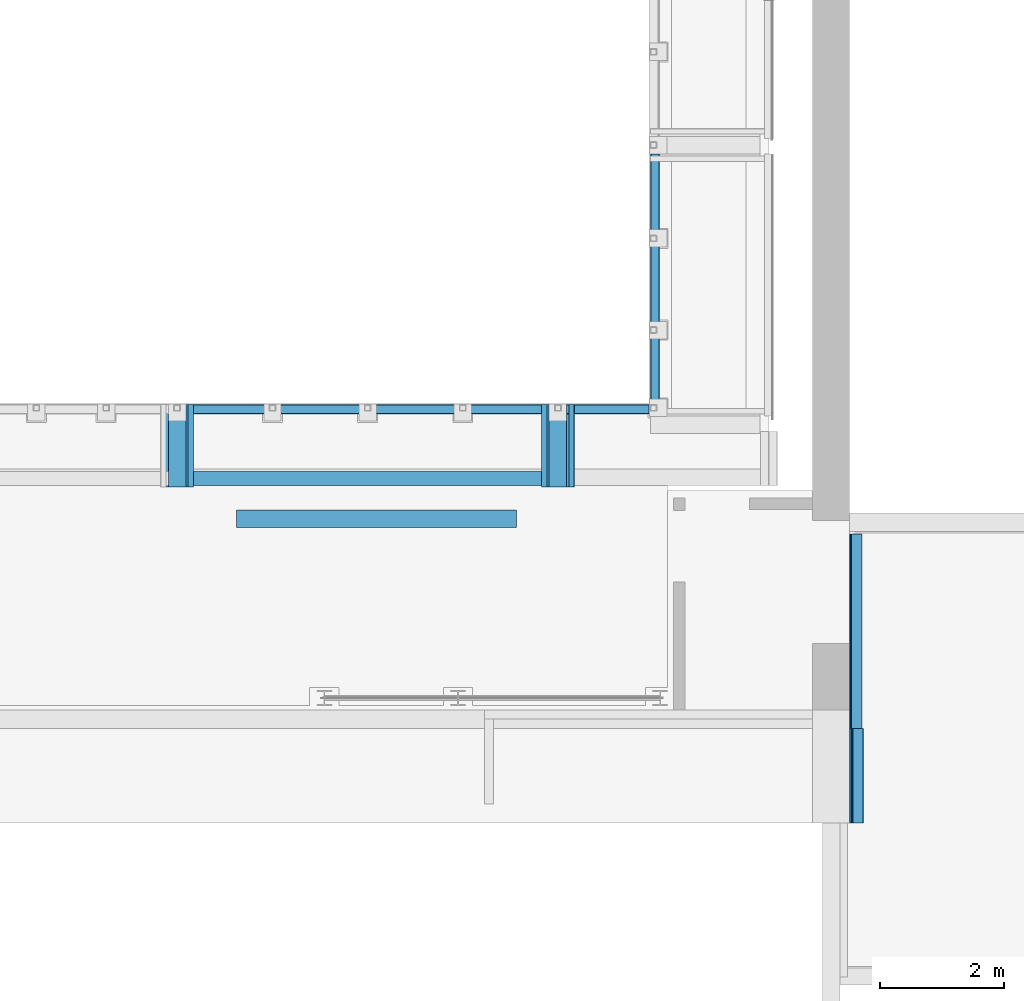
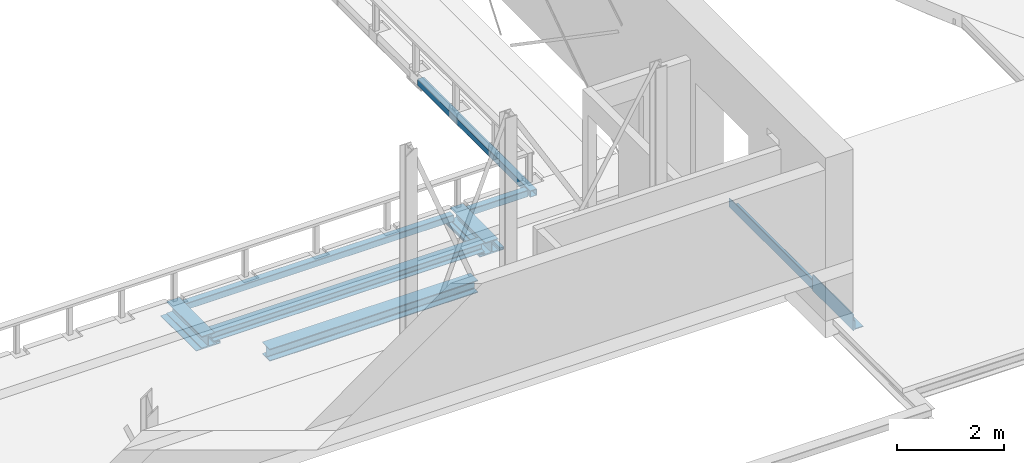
# One storey, part 17 of 68: 12 beams.
"""IFC2X3 building model written with IfcOpenShell, lengths in millimetres."""

from ifc_helpers import new_model, entity, si_unit, converted_unit, derived_unit, direction, frame, frame_2d, origin, origin_2d_with_axis, place, context, subcontext, project, spatial, polyline, circle_curve, parameter, trimmed, segment, composite_curve, rectangle, i_section, outline, extrude, source, transform, mapped, material, material_list, type_object, type_shapes, element, save


model = new_model("IFC2X3")

# Units and contexts
model_context = context("Model", 3, precision=0.01, world=origin(), true_north=direction((6.12303176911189e-17, 1.0)))
body_context = subcontext(model_context, "Body", "Model", "MODEL_VIEW")
ifc_project = project(units=[si_unit("LENGTHUNIT", "METRE", prefix="MILLI"), si_unit("AREAUNIT", "SQUARE_METRE", prefix="MILLI"), si_unit("VOLUMEUNIT", "CUBIC_METRE"), converted_unit("PLANEANGLEUNIT", "DEGREE", entity("IfcRatioMeasure", 0.0174532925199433), si_unit("PLANEANGLEUNIT", "RADIAN"), dimensions=[0, 0, 0, 0, 0, 0, 0]), si_unit("MASSUNIT", "GRAM", prefix="KILO"), derived_unit("MASSDENSITYUNIT", [(si_unit("MASSUNIT", "GRAM", prefix="KILO"), 1), (si_unit("LENGTHUNIT", "METRE"), -3)]), derived_unit("MOMENTOFINERTIAUNIT", [(si_unit("LENGTHUNIT", "METRE"), 4)]), si_unit("TIMEUNIT", "SECOND"), si_unit("FREQUENCYUNIT", "HERTZ"), si_unit("THERMODYNAMICTEMPERATUREUNIT", "DEGREE_CELSIUS"), derived_unit("THERMALTRANSMITTANCEUNIT", [(si_unit("MASSUNIT", "GRAM", prefix="KILO"), 1), (si_unit("THERMODYNAMICTEMPERATUREUNIT", "KELVIN"), -1), (si_unit("TIMEUNIT", "SECOND"), -3)]), derived_unit("VOLUMETRICFLOWRATEUNIT", [(si_unit("LENGTHUNIT", "METRE"), 3), (si_unit("TIMEUNIT", "SECOND"), -1)]), si_unit("ELECTRICCURRENTUNIT", "AMPERE"), si_unit("ELECTRICVOLTAGEUNIT", "VOLT"), si_unit("POWERUNIT", "WATT"), si_unit("FORCEUNIT", "NEWTON", prefix="KILO"), si_unit("ILLUMINANCEUNIT", "LUX"), si_unit("LUMINOUSFLUXUNIT", "LUMEN"), si_unit("LUMINOUSINTENSITYUNIT", "CANDELA"), derived_unit("USERDEFINED", [(si_unit("MASSUNIT", "GRAM", prefix="KILO"), -1), (si_unit("LENGTHUNIT", "METRE"), -2), (si_unit("TIMEUNIT", "SECOND"), 3), (si_unit("LUMINOUSFLUXUNIT", "LUMEN"), 1)]), derived_unit("LINEARVELOCITYUNIT", [(si_unit("LENGTHUNIT", "METRE"), 1), (si_unit("TIMEUNIT", "SECOND"), -1)]), si_unit("PRESSUREUNIT", "PASCAL"), derived_unit("USERDEFINED", [(si_unit("LENGTHUNIT", "METRE"), -2), (si_unit("MASSUNIT", "GRAM", prefix="KILO"), 1), (si_unit("TIMEUNIT", "SECOND"), -2)]), derived_unit("LINEARFORCEUNIT", [(si_unit("MASSUNIT", "GRAM", prefix="KILO"), 1), (si_unit("LENGTHUNIT", "METRE"), 1), (si_unit("TIMEUNIT", "SECOND"), -2), (si_unit("LENGTHUNIT", "METRE"), -1)]), derived_unit("PLANARFORCEUNIT", [(si_unit("MASSUNIT", "GRAM", prefix="KILO"), 1), (si_unit("LENGTHUNIT", "METRE"), 1), (si_unit("TIMEUNIT", "SECOND"), -2), (si_unit("LENGTHUNIT", "METRE"), -2)])], contexts=[model_context])

# Site, building, storey
site_placement = place(None, origin())
site = spatial("IfcSite", under=ifc_project, at=site_placement, Name="Theater aan de Parade", CompositionType="ELEMENT")
building_placement = place(site_placement, origin())
building = spatial("IfcBuilding", under=site, at=building_placement, Name="Theater aan de Parade", CompositionType="ELEMENT")
storey_placement = place(building_placement, frame((0.0, 0.0, 8750.0)))
storey = spatial("IfcBuildingStorey", under=building, at=storey_placement, Name="02 tweede verdieping", CompositionType="ELEMENT", Elevation=8750.0)

# Beams
ifc_material_1 = material(Name="00_PBT_MAT_staal_S355")
ifc_material_2 = material(Name="00_PBT_MAT_Lucht")
ifc_material_list = material_list([ifc_material_2, ifc_material_1])
beam_type_1 = type_object("IfcBeamType", Name="28_PBT_SF_staal_H-profiel_met_onderplaat (void):S355_HE280B + onderplaat d=12", PredefinedType="BEAM", material=ifc_material_list)
shared_shape_1 = source(origin(), body_context, "Body", "SweptSolid", [
    extrude(rectangle(XDim=12.0, YDim=530.0, at=origin_2d_with_axis()), frame((-663.501290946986, 0.0, -146.0), z_axis=(1.0, 0.0, 0.0), x_axis=(0.0, 0.0, -1.0)), (0.0, 0.0, 1.0), 1327.00258189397),
    extrude(outline(composite_curve([segment(polyline([(122.0, -140.0), (140.0, -140.0)]), True, "CONTINUOUS"), segment(polyline([(140.0, -140.0), (140.0, 140.0)]), True, "CONTINUOUS"), segment(polyline([(140.0, 140.0), (122.0, 140.0)]), True, "CONTINUOUS"), segment(polyline([(122.0, 140.0), (122.0, 29.25)]), True, "CONTINUOUS"), segment(trimmed(circle_curve(frame_2d((98.0, 29.25), x_axis=(1.0, 0.0)), 24.0), [parameter(270.0)], [parameter(0.0)], True, "PARAMETER"), False, "CONTINUOUS"), segment(polyline([(98.0, 5.24999999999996), (-98.0, 5.24999999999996)]), True, "CONTINUOUS"), segment(trimmed(circle_curve(frame_2d((-98.0, 29.25), x_axis=(0.0, -1.0)), 24.0), [parameter(270.0)], [parameter(0.0)], True, "PARAMETER"), False, "CONTINUOUS"), segment(polyline([(-122.0, 29.25), (-122.0, 140.0)]), True, "CONTINUOUS"), segment(polyline([(-122.0, 140.0), (-140.0, 140.0)]), True, "CONTINUOUS"), segment(polyline([(-140.0, 140.0), (-140.0, -140.0)]), True, "CONTINUOUS"), segment(polyline([(-140.0, -140.0), (-122.0, -140.0)]), True, "CONTINUOUS"), segment(polyline([(-122.0, -140.0), (-122.0, -29.25)]), True, "CONTINUOUS"), segment(trimmed(circle_curve(frame_2d((-98.0, -29.25), x_axis=(-1.0, 0.0)), 24.0), [parameter(270.0)], [parameter(0.0)], True, "PARAMETER"), False, "CONTINUOUS"), segment(polyline([(-98.0, -5.25000000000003), (98.0, -5.25000000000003)]), True, "CONTINUOUS"), segment(trimmed(circle_curve(frame_2d((98.0, -29.25), x_axis=(0.0, 1.0)), 24.0), [parameter(270.0)], [parameter(0.0)], True, "PARAMETER"), False, "CONTINUOUS"), segment(polyline([(122.0, -29.25), (122.0, -140.0)]), True, "CONTINUOUS")], self_intersect=False)), frame((-663.50129094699, 0.0, 0.0), z_axis=(1.0, 0.0, 0.0), x_axis=(0.0, 0.0, -1.0)), (0.0, 0.0, 1.0), 1327.00258189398),
])
type_shapes(beam_type_1, [shared_shape_1])
for number, where, z_axis, x_axis in (
    (1, (26635.3581839, 18729.8071559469, -210.0), (0.0, 0.0, 1.0), (0.0, 1.0, 0.0)),
    (2, (32760.358192, 18729.8071559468, -210.0), (0.0, 0.0, 1.0), (0.0, 1.0, 0.0)),
):
    element("IfcBeam", number, at=place(storey_placement, frame(where, z_axis=z_axis, x_axis=x_axis)), inside=storey, type_object=beam_type_1, material=ifc_material_1, Name="28_PBT_SF_staal_H-profiel_met_onderplaat (void):S355_HE280B + onderplaat d=12", ObjectType="28_PBT_SF_staal_H-profiel_met_onderplaat (void):S355_HE280B + onderplaat d=12", context=body_context, shape_type="MappedRepresentation", body=[
        mapped(shared_shape_1, transform((0.0, 0.0, 0.0), scale=1.0)),
    ])
beam_type_2 = type_object("IfcBeamType", Name="28_PBT_SF_staal_koker:S355_K150x150x10", PredefinedType="NOTDEFINED")
beam_1_placement = place(storey_placement, frame((34223.8569737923, 19318.3084468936, 0.0), z_axis=(0.0, 0.0, 1.0), x_axis=(-1.0, 0.0, 0.0)))
element("IfcBeam", 3, at=beam_1_placement, inside=storey, type_object=beam_type_2, material=ifc_material_1, Name="28_PBT_SF_staal_koker:S355_K150x150x10", ObjectType="28_PBT_SF_staal_koker:S355_K150x150x10", context=body_context, shape_type="SweptSolid", body=[
    extrude(outline(composite_curve([segment(trimmed(circle_curve(frame_2d((-60.0, -60.0), x_axis=(1.0, 0.0)), 15.0), [parameter(180.0)], [parameter(270.0)], True, "PARAMETER"), True, "CONTINUOUS"), segment(polyline([(-60.0, -75.0), (60.0, -75.0)]), True, "CONTINUOUS"), segment(trimmed(circle_curve(frame_2d((60.0, -60.0), x_axis=(1.0, 0.0)), 15.0), [parameter(270.0)], [parameter(0.0)], True, "PARAMETER"), True, "CONTINUOUS"), segment(polyline([(75.0, -60.0), (75.0, 60.0)]), True, "CONTINUOUS"), segment(trimmed(circle_curve(frame_2d((60.0, 60.0), x_axis=(1.0, 0.0)), 15.0), [parameter(3.56222124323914e-13)], [parameter(90.0000000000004)], True, "PARAMETER"), True, "CONTINUOUS"), segment(polyline([(60.0, 75.0), (-60.0, 75.0)]), True, "CONTINUOUS"), segment(trimmed(circle_curve(frame_2d((-60.0, 60.0), x_axis=(1.0, 0.0)), 15.0), [parameter(90.0)], [parameter(180.0)], True, "PARAMETER"), True, "CONTINUOUS"), segment(polyline([(-75.0, 60.0), (-75.0, -60.0)]), True, "CONTINUOUS")], self_intersect=False), holes=[composite_curve([segment(trimmed(circle_curve(frame_2d((55.0, 55.0), x_axis=(1.0, 0.0)), 10.0), [parameter(0.0)], [parameter(90.0000000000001)], True, "PARAMETER"), False, "CONTINUOUS"), segment(polyline([(65.0, 55.0), (65.0, -55.0)]), True, "CONTINUOUS"), segment(trimmed(circle_curve(frame_2d((55.0, -55.0), x_axis=(1.0, 0.0)), 10.0), [parameter(269.999999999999)], [parameter(360.0)], True, "PARAMETER"), False, "CONTINUOUS"), segment(polyline([(55.0, -65.0), (-55.0, -65.0)]), True, "CONTINUOUS"), segment(trimmed(circle_curve(frame_2d((-55.0, -55.0), x_axis=(1.0, 0.0)), 10.0), [parameter(180.0)], [parameter(270.0)], True, "PARAMETER"), False, "CONTINUOUS"), segment(polyline([(-65.0, -55.0), (-65.0, 55.0)]), True, "CONTINUOUS"), segment(trimmed(circle_curve(frame_2d((-55.0, 55.0), x_axis=(1.0, 0.0)), 10.0), [parameter(89.9999999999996)], [parameter(180.0)], True, "PARAMETER"), False, "CONTINUOUS"), segment(polyline([(-55.0, 65.0), (55.0, 65.0)]), True, "CONTINUOUS")], self_intersect=False)]), frame((0.0, 0.0, -225.0), z_axis=(1.0, 0.0, 0.0), x_axis=(0.0, 1.0, 0.0)), (0.0, 0.0, 1.0), 1323.49878179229),
])
beam_2_placement = place(storey_placement, frame((34321.8569737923, 19208.2922984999, 0.0), z_axis=(0.0, 0.0, 1.0), x_axis=(0.0, 1.0, 0.0)))
element("IfcBeam", 4, at=beam_2_placement, inside=storey, type_object=beam_type_2, material=ifc_material_1, Name="28_PBT_SF_staal_koker:S355_K150x150x10", ObjectType="28_PBT_SF_staal_koker:S355_K150x150x10", context=body_context, shape_type="SweptSolid", body=[
    extrude(outline(composite_curve([segment(trimmed(circle_curve(frame_2d((-60.0, -60.0), x_axis=(1.0, 0.0)), 15.0), [parameter(180.0)], [parameter(270.0)], True, "PARAMETER"), True, "CONTINUOUS"), segment(polyline([(-60.0, -75.0), (60.0, -75.0)]), True, "CONTINUOUS"), segment(trimmed(circle_curve(frame_2d((60.0, -60.0), x_axis=(1.0, 0.0)), 15.0), [parameter(270.0)], [parameter(0.0)], True, "PARAMETER"), True, "CONTINUOUS"), segment(polyline([(75.0, -60.0), (75.0, 60.0)]), True, "CONTINUOUS"), segment(trimmed(circle_curve(frame_2d((60.0, 60.0), x_axis=(1.0, 0.0)), 15.0), [parameter(3.56222124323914e-13)], [parameter(90.0000000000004)], True, "PARAMETER"), True, "CONTINUOUS"), segment(polyline([(60.0, 75.0), (-60.0, 75.0)]), True, "CONTINUOUS"), segment(trimmed(circle_curve(frame_2d((-60.0, 60.0), x_axis=(1.0, 0.0)), 15.0), [parameter(90.0)], [parameter(180.0)], True, "PARAMETER"), True, "CONTINUOUS"), segment(polyline([(-75.0, 60.0), (-75.0, -60.0)]), True, "CONTINUOUS")], self_intersect=False), holes=[composite_curve([segment(trimmed(circle_curve(frame_2d((55.0, 55.0), x_axis=(1.0, 0.0)), 10.0), [parameter(0.0)], [parameter(90.0000000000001)], True, "PARAMETER"), False, "CONTINUOUS"), segment(polyline([(65.0, 55.0), (65.0, -55.0)]), True, "CONTINUOUS"), segment(trimmed(circle_curve(frame_2d((55.0, -55.0), x_axis=(1.0, 0.0)), 10.0), [parameter(269.999999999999)], [parameter(360.0)], True, "PARAMETER"), False, "CONTINUOUS"), segment(polyline([(55.0, -65.0), (-55.0, -65.0)]), True, "CONTINUOUS"), segment(trimmed(circle_curve(frame_2d((-55.0, -55.0), x_axis=(1.0, 0.0)), 10.0), [parameter(180.0)], [parameter(270.0)], True, "PARAMETER"), False, "CONTINUOUS"), segment(polyline([(-65.0, -55.0), (-65.0, 55.0)]), True, "CONTINUOUS"), segment(trimmed(circle_curve(frame_2d((-55.0, 55.0), x_axis=(1.0, 0.0)), 10.0), [parameter(89.9999999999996)], [parameter(180.0)], True, "PARAMETER"), False, "CONTINUOUS"), segment(polyline([(-55.0, 65.0), (55.0, 65.0)]), True, "CONTINUOUS")], self_intersect=False)]), frame((0.0, 0.0, -225.0), z_axis=(1.0, 0.0, 0.0), x_axis=(0.0, 1.0, 0.0)), (0.0, 0.0, 1.0), 4219.99999999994),
])
beam_3_placement = place(storey_placement, frame((32620.358192, 19318.3084468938, 0.0), z_axis=(0.0, 0.0, 1.0), x_axis=(-1.0, 0.0, 0.0)))
element("IfcBeam", 5, at=beam_3_placement, inside=storey, type_object=beam_type_2, material=ifc_material_1, Name="28_PBT_SF_staal_koker:S355_K150x150x10", ObjectType="28_PBT_SF_staal_koker:S355_K150x150x10", context=body_context, shape_type="SweptSolid", body=[
    extrude(outline(composite_curve([segment(trimmed(circle_curve(frame_2d((-60.0, -60.0), x_axis=(1.0, 0.0)), 15.0), [parameter(180.0)], [parameter(270.0)], True, "PARAMETER"), True, "CONTINUOUS"), segment(polyline([(-60.0, -75.0), (60.0, -75.0)]), True, "CONTINUOUS"), segment(trimmed(circle_curve(frame_2d((60.0, -60.0), x_axis=(1.0, 0.0)), 15.0), [parameter(270.0)], [parameter(0.0)], True, "PARAMETER"), True, "CONTINUOUS"), segment(polyline([(75.0, -60.0), (75.0, 60.0)]), True, "CONTINUOUS"), segment(trimmed(circle_curve(frame_2d((60.0, 60.0), x_axis=(1.0, 0.0)), 15.0), [parameter(3.56222124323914e-13)], [parameter(90.0000000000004)], True, "PARAMETER"), True, "CONTINUOUS"), segment(polyline([(60.0, 75.0), (-60.0, 75.0)]), True, "CONTINUOUS"), segment(trimmed(circle_curve(frame_2d((-60.0, 60.0), x_axis=(1.0, 0.0)), 15.0), [parameter(90.0)], [parameter(180.0)], True, "PARAMETER"), True, "CONTINUOUS"), segment(polyline([(-75.0, 60.0), (-75.0, -60.0)]), True, "CONTINUOUS")], self_intersect=False), holes=[composite_curve([segment(trimmed(circle_curve(frame_2d((55.0, 55.0), x_axis=(1.0, 0.0)), 10.0), [parameter(0.0)], [parameter(90.0000000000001)], True, "PARAMETER"), False, "CONTINUOUS"), segment(polyline([(65.0, 55.0), (65.0, -55.0)]), True, "CONTINUOUS"), segment(trimmed(circle_curve(frame_2d((55.0, -55.0), x_axis=(1.0, 0.0)), 10.0), [parameter(269.999999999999)], [parameter(360.0)], True, "PARAMETER"), False, "CONTINUOUS"), segment(polyline([(55.0, -65.0), (-55.0, -65.0)]), True, "CONTINUOUS"), segment(trimmed(circle_curve(frame_2d((-55.0, -55.0), x_axis=(1.0, 0.0)), 10.0), [parameter(180.0)], [parameter(270.0)], True, "PARAMETER"), False, "CONTINUOUS"), segment(polyline([(-65.0, -55.0), (-65.0, 55.0)]), True, "CONTINUOUS"), segment(trimmed(circle_curve(frame_2d((-55.0, 55.0), x_axis=(1.0, 0.0)), 10.0), [parameter(89.9999999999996)], [parameter(180.0)], True, "PARAMETER"), False, "CONTINUOUS"), segment(polyline([(-55.0, 65.0), (55.0, 65.0)]), True, "CONTINUOUS")], self_intersect=False)]), frame((0.0, 0.0, -225.0), z_axis=(1.0, 0.0, 0.0), x_axis=(0.0, 1.0, 0.0)), (0.0, 0.0, 1.0), 5845.00000810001),
])
beam_type_3 = type_object("IfcBeamType", Name="28_PBT_SF_staal_H-profiel:S355_HE220A", PredefinedType="NOTDEFINED")
beam_4_placement = place(storey_placement, frame((32620.358192, 18206.305865, 0.0), z_axis=(0.0, 0.0, 1.0), x_axis=(-1.0, 0.0, 0.0)))
element("IfcBeam", 6, at=beam_4_placement, inside=storey, type_object=beam_type_3, material=ifc_material_1, Name="28_PBT_SF_staal_H-profiel:S355_HE220A", ObjectType="28_PBT_SF_staal_H-profiel:S355_HE220A", context=body_context, shape_type="SweptSolid", body=[
    extrude(outline(composite_curve([segment(polyline([(94.0, -110.0), (105.0, -110.0)]), True, "CONTINUOUS"), segment(polyline([(105.0, -110.0), (105.0, 110.0)]), True, "CONTINUOUS"), segment(polyline([(105.0, 110.0), (94.0, 110.0)]), True, "CONTINUOUS"), segment(polyline([(94.0, 110.0), (94.0, 21.5000000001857)]), True, "CONTINUOUS"), segment(trimmed(circle_curve(frame_2d((76.0, 21.5000000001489), x_axis=(1.0, 0.0)), 18.0000000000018), [parameter(270.00000000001)], [parameter(0.0)], True, "PARAMETER"), False, "CONTINUOUS"), segment(polyline([(76.0, 3.5000000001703), (-76.0, 3.49999999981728)]), True, "CONTINUOUS"), segment(trimmed(circle_curve(frame_2d((-76.0, 21.4999999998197), x_axis=(0.0, -1.0)), 18.0000000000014), [parameter(270.00000000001)], [parameter(0.0)], True, "PARAMETER"), False, "CONTINUOUS"), segment(polyline([(-94.0, 21.4999999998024), (-94.0, 110.0)]), True, "CONTINUOUS"), segment(polyline([(-94.0, 110.0), (-105.0, 110.0)]), True, "CONTINUOUS"), segment(polyline([(-105.0, 110.0), (-105.0, -110.0)]), True, "CONTINUOUS"), segment(polyline([(-105.0, -110.0), (-94.0, -110.0)]), True, "CONTINUOUS"), segment(polyline([(-94.0, -110.0), (-94.0, -21.5000000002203)]), True, "CONTINUOUS"), segment(trimmed(circle_curve(frame_2d((-76.0, -21.5000000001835), x_axis=(-1.0, 0.0)), 18.0000000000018), [parameter(270.00000000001)], [parameter(0.0)], True, "PARAMETER"), False, "CONTINUOUS"), segment(polyline([(-76.0, -3.50000000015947), (76.0, -3.4999999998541)]), True, "CONTINUOUS"), segment(trimmed(circle_curve(frame_2d((76.0, -21.4999999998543), x_axis=(0.0, 1.0)), 18.0000000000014), [parameter(270.00000000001)], [parameter(0.0)], True, "PARAMETER"), False, "CONTINUOUS"), segment(polyline([(94.0, -21.4999999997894), (94.0, -110.0)]), True, "CONTINUOUS")], self_intersect=False)), frame((0.0, 0.0, -195.0), z_axis=(1.0, 0.0, 0.0), x_axis=(0.0, 0.0, -1.0)), (0.0, 0.0, 1.0), 5845.0000081),
])
beam_type_4 = type_object("IfcBeamType", Name="28_PBT_SF_staal_H-profiel:S355_HE280B", PredefinedType="NOTDEFINED")
beam_5_placement = place(storey_placement, frame((27840.858196, 17561.308446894, 0.0)))
element("IfcBeam", 7, at=beam_5_placement, inside=storey, type_object=beam_type_4, material=ifc_material_1, Name="28_PBT_SF_staal_H-profiel:S355_HE280B", ObjectType="28_PBT_SF_staal_H-profiel:S355_HE280B", context=body_context, shape_type="SweptSolid", body=[
    extrude(i_section(OverallWidth=279.999999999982, OverallDepth=280.0, WebThickness=10.500000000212, FlangeThickness=17.9999999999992, FilletRadius=24.0000000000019, at=frame_2d((5.40012479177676e-13, 2.1600499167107e-12), x_axis=(0.0, 1.0))), frame((-250.0, 0.0, -490.0), z_axis=(1.0, 0.0, 0.0), x_axis=(0.0, 0.0, -1.0)), (0.0, 0.0, 1.0), 4500.0),
])
beam_type_5 = type_object("IfcBeamType", Name="28_PBT_SF_staal_L-profiel:S355_L200x200x20", PredefinedType="NOTDEFINED")
beam_6_placement = place(storey_placement, frame((37510.6581300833, 14186.290696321, 0.0), z_axis=(0.0, 0.0, 1.0), x_axis=(0.0, 1.0, 0.0)))
element("IfcBeam", 8, at=beam_6_placement, inside=storey, type_object=beam_type_5, material=ifc_material_1, Name="28_PBT_SF_staal_L-profiel:S355_L200x200x20", ObjectType="28_PBT_SF_staal_L-profiel:S355_L200x200x20", context=body_context, shape_type="SweptSolid", body=[
    extrude(outline(composite_curve([segment(polyline([(64.5555555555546, -124.444444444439), (75.5555555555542, -124.444444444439)]), True, "CONTINUOUS"), segment(polyline([(75.5555555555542, -124.444444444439), (75.5555555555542, 75.5555555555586)]), True, "CONTINUOUS"), segment(polyline([(75.5555555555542, 75.5555555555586), (-124.444444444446, 75.5555555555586)]), True, "CONTINUOUS"), segment(polyline([(-124.444444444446, 75.5555555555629), (-124.444444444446, 64.5555555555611)]), True, "CONTINUOUS"), segment(trimmed(circle_curve(frame_2d((-115.444444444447, 64.5555555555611), x_axis=(-1.0, 0.0)), 8.99999999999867), [parameter(0.0)], [parameter(90.000000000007)], True, "PARAMETER"), True, "CONTINUOUS"), segment(polyline([(-115.444444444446, 55.5555555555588), (37.5555555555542, 55.5555555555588)]), True, "CONTINUOUS"), segment(trimmed(circle_curve(frame_2d((37.5555555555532, 37.5555555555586), x_axis=(0.0, 1.0)), 18.0000000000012), [parameter(270.000000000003)], [parameter(0.0)], True, "PARAMETER"), False, "CONTINUOUS"), segment(polyline([(55.5555555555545, 37.5555555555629), (55.5555555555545, -115.444444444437)]), True, "CONTINUOUS"), segment(trimmed(circle_curve(frame_2d((64.5555555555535, -115.444444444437), x_axis=(-1.0, 0.0)), 8.99999999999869), [parameter(0.0)], [parameter(90.000000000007)], True, "PARAMETER"), True, "CONTINUOUS")], self_intersect=False)), frame((0.0, -18.7555555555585, -409.444444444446), z_axis=(1.0, 0.0, 0.0), x_axis=(0.0, 0.0, -1.0)), (0.0, 0.0, 1.0), 3131.25367923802),
])
beam_type_6 = type_object("IfcBeamType", Name="28_PBT_SF_staal_L-profiel_achtergelaste plaat:S355_L200x200x20", PredefinedType="BEAM", material=ifc_material_1)
shared_shape_2 = source(origin(), body_context, "Body", "SweptSolid", [
    extrude(outline(composite_curve([segment(polyline([(-124.444444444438, -75.5555555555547), (75.5555555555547, -75.5555555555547)]), True, "CONTINUOUS"), segment(polyline([(75.5555555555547, -75.5555555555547), (75.5555555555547, 124.444444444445)]), True, "CONTINUOUS"), segment(polyline([(75.555555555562, 124.444444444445), (64.555555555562, 124.444444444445)]), True, "CONTINUOUS"), segment(trimmed(circle_curve(frame_2d((64.555555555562, 115.444444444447), x_axis=(0.0, 1.0)), 8.99999999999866), [parameter(0.0)], [parameter(90.000000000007)], True, "PARAMETER"), True, "CONTINUOUS"), segment(polyline([(55.5555555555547, 115.444444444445), (55.5555555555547, -37.5555555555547)]), True, "CONTINUOUS"), segment(trimmed(circle_curve(frame_2d((37.5555555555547, -37.5555555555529), x_axis=(1.0, 0.0)), 18.0000000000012), [parameter(270.000000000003)], [parameter(0.0)], True, "PARAMETER"), False, "CONTINUOUS"), segment(polyline([(37.555555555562, -55.5555555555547), (-115.444444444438, -55.5555555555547)]), True, "CONTINUOUS"), segment(trimmed(circle_curve(frame_2d((-115.444444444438, -64.5555555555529), x_axis=(0.0, 1.0)), 8.99999999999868), [parameter(0.0)], [parameter(90.000000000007)], True, "PARAMETER"), True, "CONTINUOUS"), segment(polyline([(-124.444444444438, -64.5555555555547), (-124.444444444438, -75.5555555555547)]), True, "CONTINUOUS")], self_intersect=False)), frame((37549.4136856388, 12669.2267697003, 8340.55555555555), z_axis=(0.0, 1.0, 0.0), x_axis=(-1.0, 0.0, 0.0)), (0.0, 0.0, 1.0), 1517.06392662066),
    extrude(rectangle(XDim=369.999999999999, YDim=19.9999999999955, at=frame_2d((0.0, -5.40012479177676e-13), x_axis=(0.0, 1.0))), frame((37463.8581300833, 12669.2267697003, 8430.0), z_axis=(0.0, 1.0, 0.0), x_axis=(-1.0, 0.0, 0.0)), (0.0, 0.0, 1.0), 1517.06392662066),
])
type_shapes(beam_type_6, [shared_shape_2])
beam_7_placement = place(storey_placement, frame((0.0, 0.0, -8750.0)))
element("IfcBeam", 9, at=beam_7_placement, inside=storey, type_object=beam_type_6, material=ifc_material_1, Name="28_PBT_SF_staal_L-profiel_achtergelaste plaat:S355_L200x200x20", ObjectType="28_PBT_SF_staal_L-profiel_achtergelaste plaat:S355_L200x200x20", context=body_context, shape_type="MappedRepresentation", body=[
    mapped(shared_shape_2, transform((0.0, 0.0, 0.0), scale=1.0)),
])
ifc_material_3 = material(Name="00_PBT_MAT_staal_S235")
beam_type_7 = type_object("IfcBeamType", Name="28_PBT_SF_staal_koker:S235_K50x90x5", PredefinedType="NOTDEFINED")
beam_8_placement = place(storey_placement, frame((26855.3581838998, 18066.3058649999, 0.0), z_axis=(0.0, 0.0, 1.0), x_axis=(0.0, 1.0, 0.0)))
element("IfcBeam", 10, at=beam_8_placement, inside=storey, type_object=beam_type_7, material=ifc_material_3, Name="28_PBT_SF_staal_koker:S235_K50x90x5", ObjectType="28_PBT_SF_staal_koker:S235_K50x90x5", context=body_context, shape_type="SweptSolid", body=[
    extrude(outline(composite_curve([segment(trimmed(circle_curve(frame_2d((-37.5000000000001, -17.5000000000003), x_axis=(1.0, 0.0)), 7.5), [parameter(180.0)], [parameter(270.0)], True, "PARAMETER"), True, "CONTINUOUS"), segment(polyline([(-37.5000000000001, -25.0), (37.5000000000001, -25.0)]), True, "CONTINUOUS"), segment(trimmed(circle_curve(frame_2d((37.5000000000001, -17.5000000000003), x_axis=(1.0, 0.0)), 7.5), [parameter(270.0)], [parameter(0.0)], True, "PARAMETER"), True, "CONTINUOUS"), segment(polyline([(45.0, -17.5000000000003), (45.0, 17.4999999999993)]), True, "CONTINUOUS"), segment(trimmed(circle_curve(frame_2d((37.5000000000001, 17.4999999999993), x_axis=(1.0, 0.0)), 7.5), [parameter(3.56222124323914e-13)], [parameter(90.0000000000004)], True, "PARAMETER"), True, "CONTINUOUS"), segment(polyline([(37.5000000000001, 25.0), (-37.5000000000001, 25.0)]), True, "CONTINUOUS"), segment(trimmed(circle_curve(frame_2d((-37.5000000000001, 17.4999999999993), x_axis=(1.0, 0.0)), 7.5), [parameter(90.0000000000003)], [parameter(180.0)], True, "PARAMETER"), True, "CONTINUOUS"), segment(polyline([(-45.0, 17.4999999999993), (-45.0, -17.5000000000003)]), True, "CONTINUOUS")], self_intersect=False), holes=[composite_curve([segment(trimmed(circle_curve(frame_2d((35.0, 15.0), x_axis=(1.0, 0.0)), 5.0), [parameter(360.0)], [parameter(90.0000000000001)], True, "PARAMETER"), False, "CONTINUOUS"), segment(polyline([(40.0, 15.0), (40.0, -15.0)]), True, "CONTINUOUS"), segment(trimmed(circle_curve(frame_2d((35.0, -15.0), x_axis=(1.0, 0.0)), 5.0), [parameter(269.999999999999)], [parameter(360.0)], True, "PARAMETER"), False, "CONTINUOUS"), segment(polyline([(35.0, -20.0), (-35.0, -20.0)]), True, "CONTINUOUS"), segment(trimmed(circle_curve(frame_2d((-35.0, -15.0), x_axis=(1.0, 0.0)), 5.0), [parameter(180.0)], [parameter(270.0)], True, "PARAMETER"), False, "CONTINUOUS"), segment(polyline([(-40.0, -15.0), (-40.0, 15.0)]), True, "CONTINUOUS"), segment(trimmed(circle_curve(frame_2d((-35.0, 15.0), x_axis=(1.0, 0.0)), 5.0), [parameter(90.0)], [parameter(180.0)], True, "PARAMETER"), False, "CONTINUOUS"), segment(polyline([(-35.0, 20.0), (35.0, 20.0)]), True, "CONTINUOUS")], self_intersect=False)]), frame((0.0, 0.0, -325.0), z_axis=(1.0, 0.0, 0.0), x_axis=(0.0, 1.0, 0.0)), (0.0, 0.0, 1.0), 1327.00258189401),
])
beam_9_placement = place(storey_placement, frame((32540.358192, 18066.3058649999, 0.0), z_axis=(0.0, 0.0, 1.0), x_axis=(0.0, 1.0, 0.0)))
element("IfcBeam", 11, at=beam_9_placement, inside=storey, type_object=beam_type_7, material=ifc_material_3, Name="28_PBT_SF_staal_koker:S235_K50x90x5", ObjectType="28_PBT_SF_staal_koker:S235_K50x90x5", context=body_context, shape_type="SweptSolid", body=[
    extrude(outline(composite_curve([segment(polyline([(-17.4999999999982, -45.0), (17.5000000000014, -45.0)]), True, "CONTINUOUS"), segment(trimmed(circle_curve(frame_2d((17.5000000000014, -37.5000000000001), x_axis=(0.0, 1.0)), 7.5), [parameter(180.0)], [parameter(270.0)], True, "PARAMETER"), True, "CONTINUOUS"), segment(polyline([(25.0, -37.5000000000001), (25.0, 37.5000000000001)]), True, "CONTINUOUS"), segment(trimmed(circle_curve(frame_2d((17.5000000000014, 37.5000000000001), x_axis=(0.0, 1.0)), 7.5), [parameter(270.0)], [parameter(360.0)], True, "PARAMETER"), True, "CONTINUOUS"), segment(polyline([(17.5000000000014, 45.0), (-17.4999999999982, 45.0)]), True, "CONTINUOUS"), segment(trimmed(circle_curve(frame_2d((-17.4999999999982, 37.5000000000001), x_axis=(0.0, 1.0)), 7.5), [parameter(0.0)], [parameter(90.0000000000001)], True, "PARAMETER"), True, "CONTINUOUS"), segment(polyline([(-25.0, 37.5000000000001), (-25.0, -37.5000000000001)]), True, "CONTINUOUS"), segment(trimmed(circle_curve(frame_2d((-17.4999999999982, -37.5000000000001), x_axis=(0.0, 1.0)), 7.5), [parameter(89.9999999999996)], [parameter(180.0)], True, "PARAMETER"), True, "CONTINUOUS")], self_intersect=False), holes=[composite_curve([segment(polyline([(20.0, 35.0), (20.0, -35.0)]), True, "CONTINUOUS"), segment(trimmed(circle_curve(frame_2d((15.0, -35.0), x_axis=(0.0, 1.0)), 5.0), [parameter(180.0)], [parameter(270.0)], True, "PARAMETER"), False, "CONTINUOUS"), segment(polyline([(15.0, -40.0), (-15.0, -40.0)]), True, "CONTINUOUS"), segment(trimmed(circle_curve(frame_2d((-15.0, -35.0), x_axis=(0.0, 1.0)), 5.0), [parameter(90.0000000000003)], [parameter(180.0)], True, "PARAMETER"), False, "CONTINUOUS"), segment(polyline([(-20.0, -35.0), (-20.0, 35.0)]), True, "CONTINUOUS"), segment(trimmed(circle_curve(frame_2d((-15.0, 35.0), x_axis=(0.0, 1.0)), 5.0), [parameter(3.56222124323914e-13)], [parameter(90.0000000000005)], True, "PARAMETER"), False, "CONTINUOUS"), segment(polyline([(-15.0, 40.0), (15.0, 40.0)]), True, "CONTINUOUS"), segment(trimmed(circle_curve(frame_2d((15.0, 35.0), x_axis=(0.0, 1.0)), 5.0), [parameter(270.0)], [parameter(5.08888749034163e-14)], True, "PARAMETER"), False, "CONTINUOUS")], self_intersect=False)]), frame((0.0, 0.0, -325.0), z_axis=(1.0, 0.0, 0.0), x_axis=(0.0, 0.0, 1.0)), (0.0, 0.0, 1.0), 1327.002581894),
])
beam_10_placement = place(storey_placement, frame((32980.3581919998, 18066.3058649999, 0.0), z_axis=(0.0, 0.0, 1.0), x_axis=(0.0, 1.0, 0.0)))
element("IfcBeam", 12, at=beam_10_placement, inside=storey, type_object=beam_type_7, material=ifc_material_3, Name="28_PBT_SF_staal_koker:S235_K50x90x5", ObjectType="28_PBT_SF_staal_koker:S235_K50x90x5", context=body_context, shape_type="SweptSolid", body=[
    extrude(outline(composite_curve([segment(trimmed(circle_curve(frame_2d((-37.5000000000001, -17.5000000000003), x_axis=(1.0, 0.0)), 7.5), [parameter(180.0)], [parameter(270.0)], True, "PARAMETER"), True, "CONTINUOUS"), segment(polyline([(-37.5000000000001, -25.0), (37.5000000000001, -25.0)]), True, "CONTINUOUS"), segment(trimmed(circle_curve(frame_2d((37.5000000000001, -17.5000000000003), x_axis=(1.0, 0.0)), 7.5), [parameter(270.0)], [parameter(0.0)], True, "PARAMETER"), True, "CONTINUOUS"), segment(polyline([(45.0, -17.5000000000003), (45.0, 17.4999999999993)]), True, "CONTINUOUS"), segment(trimmed(circle_curve(frame_2d((37.5000000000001, 17.4999999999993), x_axis=(1.0, 0.0)), 7.5), [parameter(3.56222124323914e-13)], [parameter(90.0000000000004)], True, "PARAMETER"), True, "CONTINUOUS"), segment(polyline([(37.5000000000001, 25.0), (-37.5000000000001, 25.0)]), True, "CONTINUOUS"), segment(trimmed(circle_curve(frame_2d((-37.5000000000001, 17.4999999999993), x_axis=(1.0, 0.0)), 7.5), [parameter(90.0000000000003)], [parameter(180.0)], True, "PARAMETER"), True, "CONTINUOUS"), segment(polyline([(-45.0, 17.4999999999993), (-45.0, -17.5000000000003)]), True, "CONTINUOUS")], self_intersect=False), holes=[composite_curve([segment(trimmed(circle_curve(frame_2d((35.0, 15.0), x_axis=(1.0, 0.0)), 5.0), [parameter(360.0)], [parameter(90.0000000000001)], True, "PARAMETER"), False, "CONTINUOUS"), segment(polyline([(40.0, 15.0), (40.0, -15.0)]), True, "CONTINUOUS"), segment(trimmed(circle_curve(frame_2d((35.0, -15.0), x_axis=(1.0, 0.0)), 5.0), [parameter(269.999999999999)], [parameter(360.0)], True, "PARAMETER"), False, "CONTINUOUS"), segment(polyline([(35.0, -20.0), (-35.0, -20.0)]), True, "CONTINUOUS"), segment(trimmed(circle_curve(frame_2d((-35.0, -15.0), x_axis=(1.0, 0.0)), 5.0), [parameter(180.0)], [parameter(270.0)], True, "PARAMETER"), False, "CONTINUOUS"), segment(polyline([(-40.0, -15.0), (-40.0, 15.0)]), True, "CONTINUOUS"), segment(trimmed(circle_curve(frame_2d((-35.0, 15.0), x_axis=(1.0, 0.0)), 5.0), [parameter(90.0)], [parameter(180.0)], True, "PARAMETER"), False, "CONTINUOUS"), segment(polyline([(-35.0, 20.0), (35.0, 20.0)]), True, "CONTINUOUS")], self_intersect=False)]), frame((0.0, 0.0, -325.0), z_axis=(1.0, 0.0, 0.0), x_axis=(0.0, 1.0, 0.0)), (0.0, 0.0, 1.0), 1327.00258189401),
])

save(model, "model.ifc")
